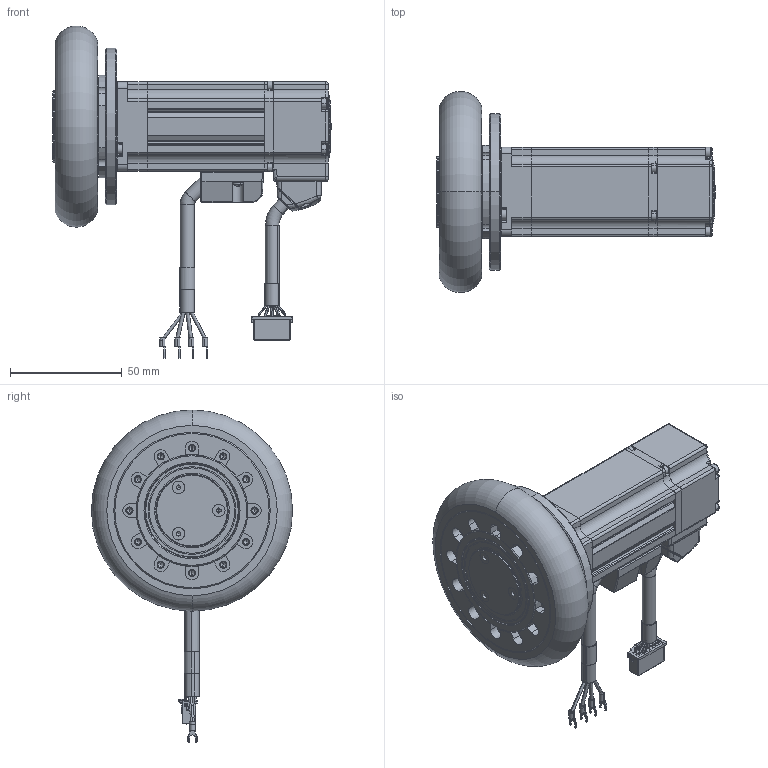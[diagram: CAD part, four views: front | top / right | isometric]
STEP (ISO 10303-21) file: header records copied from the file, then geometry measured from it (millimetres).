
FILE_DESCRIPTION((''),'2;1');
FILE_NAME('AEQ062-XX-XX_ASM','2025-03-13T10:51:06',('ms15079'),(''),'CREO PARAMETRIC BY PTC INC, 2018100','CREO PARAMETRIC BY PTC INC, 2018100','');
FILE_SCHEMA(('CONFIG_CONTROL_DESIGN'));
Products named in the file (62): 4294404004348_-1720001; 4294404004348_-6520001; NONE_1_2; 4294404004348_-1310001; 0226-42191201014230001; 4294404004348_-1850001; 4294404004348_-1860001; 4294404004348_-1930001; 4294404004348_-1940001; 4294404004348_-1950001; AEQ-042C-004-01__X2_65E0530580F_ASM; 2_100; 3698201102390_40SV__X2_530580_1_ASM; ASM0007_ASM; _1-SOLID10001; SOCKET_HEAD_CAP_SCREW_ISO-4-SOL; 4613103300029-1_3627410000040-1; AGV-1-SOLID10001; 4332101208661-1-SOLID1; 2-1-SOLID10001; 4613103300029-1_4718414002596-1; AGV-3-SOLID10001; 4634140203189-1-SOLID1; 4294440200047-1-SOLID1; HEXAGON_SOCKET_HEAD_CAP_S-32433; HEXAGON_SOCKET_HEAD_CAP_S-33275; SOCKET_HEAD_CAP_SCREW_ISO-2-SOL; 4219121500116-1-SOLID2; _1-SOLID100; 4613103300029-1_4294404000409-1; _466750001; HEXAGON_SOCKET_HEAD_CAP_S-49007; HEXAGON_SOCKET_HEAD_CAP_S-56098; _561120001; 4613103300029-1_4294404000419-2; _601020001; _608030001; 4219121304969-1-SOLID1; HEXAGON_SOCKET_HEAD_CAP_S-63983; 4613103300029-1_4219130000226-1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
Assembly tree (61 placements, depth 4):
  AEQ062-XX-XX_ASM
    AEQ-042C-004-01__X2_65E0530580F_ASM
      4294404004348_-1720001
      4294404004348_-6520001
      NONE_1_2
      4294404004348_-1310001
      0226-42191201014230001
      4294404004348_-1850001
      4294404004348_-1860001
      4294404004348_-1930001
      4294404004348_-1940001
      4294404004348_-1950001
    ASM0007_ASM
      3698201102390_40SV__X2_530580_1_ASM
        2_100
        2_100
    SM0402-SL-KCY-NNV_ASM
      4611170001073_ASM
        _1-SOLID10001
        SOCKET_HEAD_CAP_SCREW_ISO-4-SOL
        4613103300029-1_3627410000040-1
        AGV-1-SOLID10001
        4332101208661-1-SOLID1
        2-1-SOLID10001
        4613103300029-1_4718414002596-1
        AGV-3-SOLID10001
        4634140203189-1-SOLID1
        4294440200047-1-SOLID1
        HEXAGON_SOCKET_HEAD_CAP_S-32433
        HEXAGON_SOCKET_HEAD_CAP_S-33275
        SOCKET_HEAD_CAP_SCREW_ISO-2-SOL
        4219121500116-1-SOLID2
        _1-SOLID100
        4613103300029-1_4294404000409-1
        _466750001
        HEXAGON_SOCKET_HEAD_CAP_S-49007
        HEXAGON_SOCKET_HEAD_CAP_S-56098
        _561120001
        4613103300029-1_4294404000419-2
        _601020001
        _608030001
        4219121304969-1-SOLID1
        HEXAGON_SOCKET_HEAD_CAP_S-63983
        4613103300029-1_4219130000226-1
        _1-SOLID20001
        HEXAGON_SOCKET_HEAD_CAP_S-71787
        2-1-SOLID20001
        5016461600-1-SOLID1
        AGV-2-SOLID10001
        4634140203189-1-SOLID2
        HEXAGON_SOCKET_HEAD_CAP_S-86788
        4613103300029-1_4294404000419-1
        SOCKET_HEAD_CAP_SCREW_ISO-1-SOL
        4331101000120-1-SOLID1
        SOCKET_HEAD_CAP_SCREW_ISO-3-SOL
        _1057200001
        _1073360001
        AGV-4-SOLID10001
        _1152280001
        4219121500116-1-SOLID1
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Bounding box: 124.5 x 90 x 148.57 mm (x, y, z)
Volume: 192934.1 mm3; surface area: 121481.3 mm2
Topology: 56 solids, 67 shells, 3286 faces, 8284 edges, 5169 vertices
Faces by surface type: plane 1344, cylinder 1038, cone 333, torus 235, bspline 144, sphere 138, extrusion 54
Entity records: 122096 total; most frequent: CARTESIAN_POINT 41694, DIRECTION 17040, ORIENTED_EDGE 16264, EDGE_CURVE 8132, AXIS2_PLACEMENT_3D 6490, VERTEX_POINT 5169, VECTOR 4060, LINE 4006
